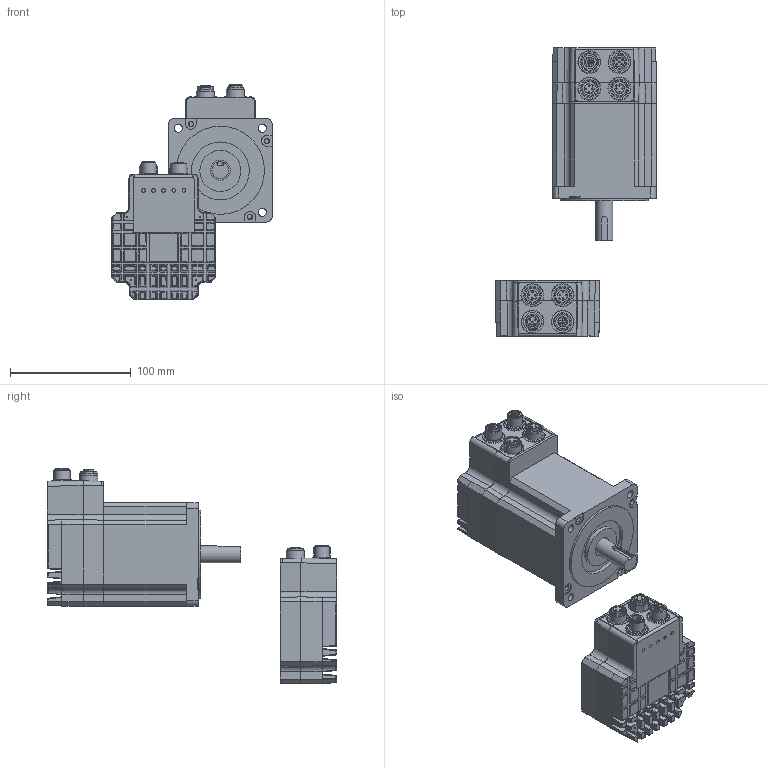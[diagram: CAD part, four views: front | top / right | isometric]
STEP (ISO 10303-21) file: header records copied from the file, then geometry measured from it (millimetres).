
FILE_DESCRIPTION( ( 'Unknown' ), '1' );
FILE_NAME( 'K:/JVL/MISxx/MIS34x/CAD internet tegninger/STEP/STEP/MIS341C14xxxxx85.stp', 'Unknown', ( 'Unknown' ), ( 'Unknown' ), 'PSStep 11.0', 'Unknown', ' ' );
FILE_SCHEMA( ( 'AUTOMOTIVE_DESIGN { 1 0 10303 214 1 1 1 1 }' ) );
Length unit declared in the file: millimetre
Products named in the file (6): Assem1; MIS34C14 motor single shaft; MIShus ethernet
Bounding box: 133.44 x 239.5 x 178.64 mm (x, y, z)
Volume: 1695650.4 mm3; surface area: 209589 mm2
Topology: 10 solids, 12 shells, 2122 faces, 5066 edges, 3116 vertices
Faces by surface type: plane 974, cylinder 848, sphere 218, cone 38, bspline 30, torus 14
Full cylindrical faces by diameter (mm): 0.7 x34, 1 x34, 3 x10, 4.3 x8, 4.4 x8, 6.6 x8, 8.2 x2, 10.6 x2, 11.5 x6, 12 x2, 13.3 x4, 13.6 x2, 14 x2, 16 x2, 16.5 x2, 18 x8, 19 x12, 34 x2, 48 x2, 73 x2
Entity records: 39093 total; most frequent: CARTESIAN_POINT 5878, DIRECTION 5398, ORIENTED_EDGE 4838, EDGE_CURVE 2419, AXIS2_PLACEMENT_3D 1984, VERTEX_POINT 1529, LINE 1430, VECTOR 1430
